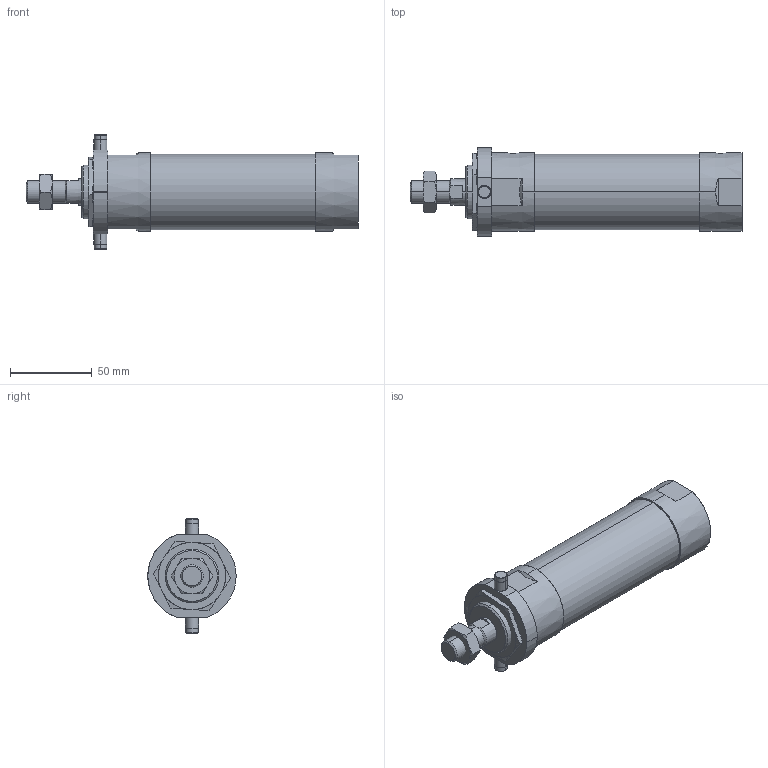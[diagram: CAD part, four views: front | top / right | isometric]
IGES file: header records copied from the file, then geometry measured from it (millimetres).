
Start section: SolidWorks IGES file using analytic representation for surfaces
Global section: file name: C:\Users\Toshiba\Desktop\JGND2-40-50-T.IGS; native system: SolidWorks 2014; preprocessor: SolidWorks 2014; author: Toshiba; date: 160804.110611; units: millimetre
Bounding box: 203 x 54 x 70 mm (x, y, z)
Surface area: 39900.3 mm2 (no closed solid volume)
Topology: 0 solids, 0 shells, 116 faces, 2138 edges, 2134 vertices
Faces by surface type: bspline 62, revolution 54
